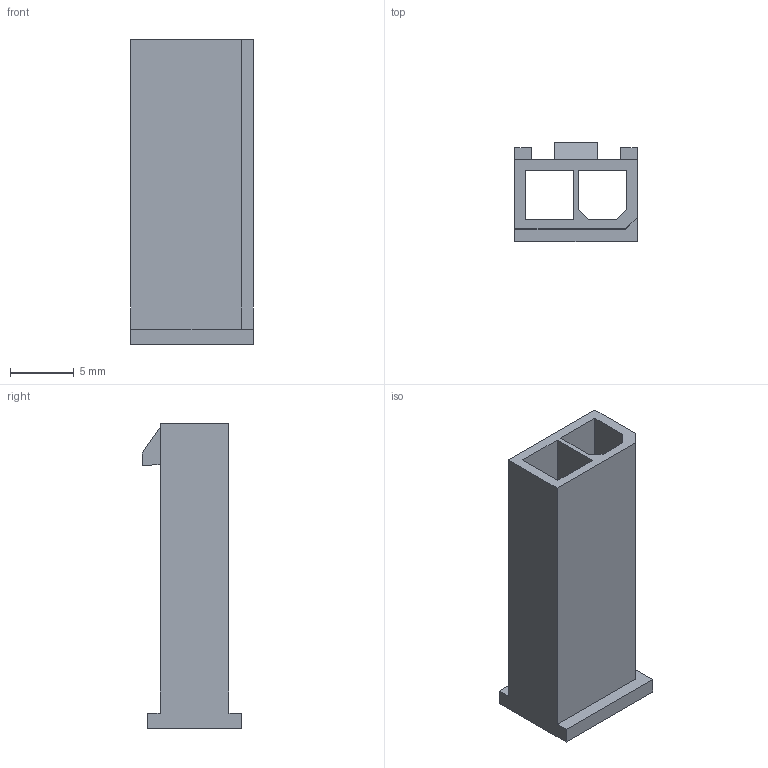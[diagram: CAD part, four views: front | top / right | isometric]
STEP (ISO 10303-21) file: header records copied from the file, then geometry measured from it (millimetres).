
FILE_DESCRIPTION (( 'STEP AP214' ), '1' );
FILE_NAME ('4973-1X02FHNB.STEP', '2016-07-07T07:30:27', ( 'admin' ), ( '' ), 'SwSTEP 2.0', 'SolidWorks 2011', '' );
FILE_SCHEMA (( 'AUTOMOTIVE_DESIGN' ));
Length unit declared in the file: millimetre
Products named in the file (2): h_Default; 4973-1X02FHNB
Assembly tree (1 placements, depth 2):
  4973-1X02FHNB
    h_Default
Bounding box: 9.6 x 7.8 x 23.9 mm (x, y, z)
Volume: 560.6 mm3; surface area: 1508.1 mm2
Topology: 1 solids, 1 shells, 30 faces, 81 edges, 54 vertices
Faces by surface type: plane 30
Entity records: 999 total; most frequent: CARTESIAN_POINT 169, ORIENTED_EDGE 162, DIRECTION 149, EDGE_CURVE 81, LINE 81, VECTOR 81, VERTEX_POINT 54, EDGE_LOOP 35
